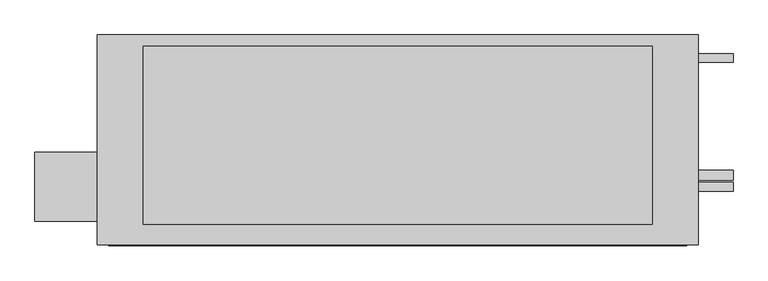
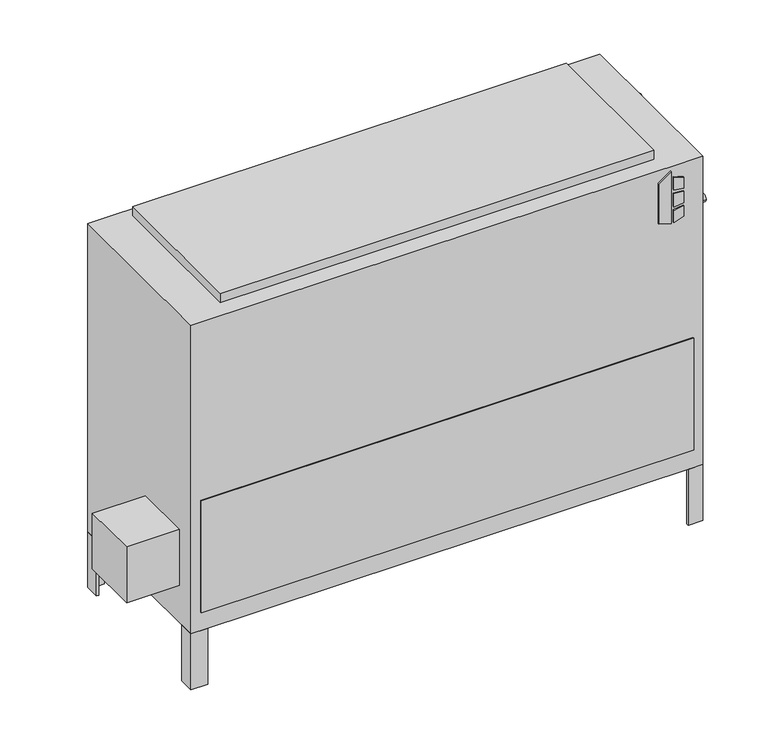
"""IFC4 building model written with IfcOpenShell, lengths in millimetres: proxy geometry, Concealed_High_Capacity_Vertical_Fan_Coil_Unit_-_VEY_-_IEC_-_2-Pipe_Cool-EHeat_RH_2022 : Size 18 - 277v/60Hz/1Ph - 6 Row 12.0kW."""

from ifc_helpers import new_model, si_unit, point, frame, frame_2d, origin, origin_with_axes, place, context, project, spatial, polyline, circle_curve, trimmed, segment, composite_curve, outline, extrude, source, transform, mapped, element, save


def mechanical_equipment_52d6ed6b(model_context):
    return source(origin(), model_context, "Body", "SweptSolid", [
        extrude(outline(polyline([(698.9230703, 696.9868862), (688.975, 729.1602728), (831.1459244, 729.1602728), (808.1239183, 696.9868862), (698.9230703, 696.9868862)])), frame((0.0, -471.4875, 0.0), z_axis=(0.0, 1.0, 0.0), x_axis=(0.0, 0.0, 1.0)), (0.0, 0.0, 1.0), 3.175),
        extrude(outline(polyline([(777.9223557, 735.9186058), (774.7199632, 762.0), (803.9488042, 762.0), (812.0132193, 735.9186058), (777.9223557, 735.9186058)])), frame((0.0, -471.4875, 0.0), z_axis=(0.0, 1.0, 0.0), x_axis=(0.0, 0.0, 1.0)), (0.0, 0.0, 1.0), 3.175),
        extrude(outline(polyline([(726.0588288, 762.0), (722.3933279, 735.9186058), (688.975, 735.9186058), (697.6092372, 762.0), (726.0588288, 762.0)])), frame((0.0, -471.4875, 0.0), z_axis=(0.0, 1.0, 0.0), x_axis=(0.0, 0.0, 1.0)), (0.0, 0.0, 1.0), 3.175),
        extrude(outline(polyline([(765.3739903, 762.0), (767.6558166, 735.9186058), (731.7182681, 735.9186058), (734.4595331, 762.0), (765.3739903, 762.0)])), frame((0.0, -471.4875, 0.0), z_axis=(0.0, 1.0, 0.0), x_axis=(0.0, 0.0, 1.0)), (0.0, 0.0, 1.0), 3.175),
        extrude(outline(polyline([(-644.525, -417.5125), (-644.525, -265.1125), (-508.0, -265.1125), (-508.0, -417.5125), (-644.525, -417.5125)])), frame((0.0, 0.0, 101.6), z_axis=(0.0, 0.0, 1.0), x_axis=(1.0, 0.0, 0.0)), (0.0, 0.0, 1.0), 152.4),
        extrude(outline(polyline([(812.8, -46.0375), (806.45, -46.0375), (806.45, -14.2875), (774.7, -14.2875), (774.7, -7.9375), (812.8, -7.9375), (812.8, -46.0375)])), frame((0.0, 0.0, -152.4), z_axis=(0.0, 0.0, 1.0), x_axis=(1.0, 0.0, 0.0)), (0.0, 0.0, 1.0), 152.4),
        extrude(outline(polyline([(-469.9, -7.9375), (-469.9, -14.2875), (-501.65, -14.2875), (-501.65, -46.0375), (-508.0, -46.0375), (-508.0, -7.9375), (-469.9, -7.9375)])), frame((0.0, 0.0, -152.4), z_axis=(0.0, 0.0, 1.0), x_axis=(1.0, 0.0, 0.0)), (0.0, 0.0, 1.0), 152.4),
        extrude(outline(polyline([(774.7, -468.3125), (774.7, -461.9625), (806.45, -461.9625), (806.45, -430.2125), (812.8, -430.2125), (812.8, -468.3125), (774.7, -468.3125)])), frame((0.0, 0.0, -152.4), z_axis=(0.0, 0.0, 1.0), x_axis=(1.0, 0.0, 0.0)), (0.0, 0.0, 1.0), 152.4),
        extrude(outline(polyline([(-508.0, -428.1199163), (-501.65, -428.1199163), (-501.65, -461.9625), (-464.5318533, -461.9625), (-464.5318533, -468.3125), (-508.0, -468.3125), (-508.0, -428.1199163)])), frame((0.0, 0.0, -152.4), z_axis=(0.0, 0.0, 1.0), x_axis=(1.0, 0.0, 0.0)), (0.0, 0.0, 1.0), 152.4),
        extrude(outline(polyline([(711.2, -33.3375), (711.2, -423.8625), (-406.4, -423.8625), (-406.4, -33.3375), (711.2, -33.3375)])), frame((0.0, 0.0, 841.375), z_axis=(0.0, 0.0, 1.0), x_axis=(1.0, 0.0, 0.0)), (0.0, 0.0, 1.0), 25.4),
        extrude(outline(polyline([(787.4, -471.4875), (-482.6, -471.4875), (-482.6, -468.3125), (787.4, -468.3125), (787.4, -471.4875)])), frame((0.0, 0.0, 50.8), z_axis=(0.0, 0.0, 1.0), x_axis=(1.0, 0.0, 0.0)), (0.0, 0.0, 1.0), 304.8),
        extrude(outline(composite_curve([segment(trimmed(circle_curve(frame_2d((-58.7375, 727.075)), 9.525), [point((-49.2125, 727.075))], [point((-68.2625, 727.075))], False, "CARTESIAN"), True, "CONTINUOUS"), segment(trimmed(circle_curve(frame_2d((-58.7375, 727.075)), 9.525), [point((-68.2625, 727.075))], [point((-49.2125, 727.075))], False, "CARTESIAN"), True, "CONTINUOUS")], self_intersect=False)), frame((812.8, 0.0, 0.0), z_axis=(1.0, 0.0, 0.0), x_axis=(0.0, 1.0, 0.0)), (0.0, 0.0, 1.0), 76.2),
        extrude(outline(composite_curve([segment(trimmed(circle_curve(frame_2d((-341.3125, 625.475)), 9.525), [point((-331.7875, 625.475))], [point((-350.8375, 625.475))], False, "CARTESIAN"), True, "CONTINUOUS"), segment(trimmed(circle_curve(frame_2d((-341.3125, 625.475)), 9.525), [point((-350.8375, 625.475))], [point((-331.7875, 625.475))], False, "CARTESIAN"), True, "CONTINUOUS")], self_intersect=False)), frame((812.8, 0.0, 0.0), z_axis=(1.0, 0.0, 0.0), x_axis=(0.0, 1.0, 0.0)), (0.0, 0.0, 1.0), 76.2),
        extrude(outline(composite_curve([segment(trimmed(circle_curve(frame_2d((-315.9125, 536.575)), 11.1125), [point((-304.8, 536.575))], [point((-327.025, 536.575))], False, "CARTESIAN"), True, "CONTINUOUS"), segment(trimmed(circle_curve(frame_2d((-315.9125, 536.575)), 11.1125), [point((-327.025, 536.575))], [point((-304.8, 536.575))], False, "CARTESIAN"), True, "CONTINUOUS")], self_intersect=False)), frame((812.8, 0.0, 0.0), z_axis=(1.0, 0.0, 0.0), x_axis=(0.0, 1.0, 0.0)), (0.0, 0.0, 1.0), 76.2),
        extrude(outline(polyline([(812.8, -7.9375), (812.8, -468.3125), (-508.0, -468.3125), (-508.0, -7.9375), (812.8, -7.9375)])), origin_with_axes(), (0.0, 0.0, 1.0), 841.375),
    ])


if __name__ == "__main__":
    model = new_model("IFC4")
    model_context = context("Model", 3, world=origin())
    ifc_project = project(units=[si_unit("LENGTHUNIT", "METRE", prefix="MILLI")], contexts=[model_context])
    site = spatial("IfcSite", under=ifc_project)
    building = spatial("IfcBuilding", under=site)
    placement = place(None, origin())
    mechanical_equipment_shape = mechanical_equipment_52d6ed6b(model_context)
    element("IfcBuildingElementProxy", 1, Name="Concealed_High_Capacity_Vertical_Fan_Coil_Unit_-_VEY_-_IEC_-_2-Pipe_Cool-EHeat_RH_2022 : Size 18 - 277v/60Hz/1Ph - 6 Row 12.0kW", ObjectType="Concealed_High_Capacity_Vertical_Fan_Coil_Unit_-_VEY_-_IEC_-_2-Pipe_Cool-EHeat_RH_2022 : Size 18 - 277v/60Hz/1Ph - 6 Row 12.0kW", at=placement, inside=building, context=model_context, shape_type="MappedRepresentation", body=[
        mapped(mechanical_equipment_shape, transform((0.0, 0.0, 0.0), x_axis=(1.0, 0.0, 0.0), y_axis=(0.0, 1.0, 0.0), z_axis=(0.0, 0.0, 1.0))),
    ])
    save(model, "model.ifc")
